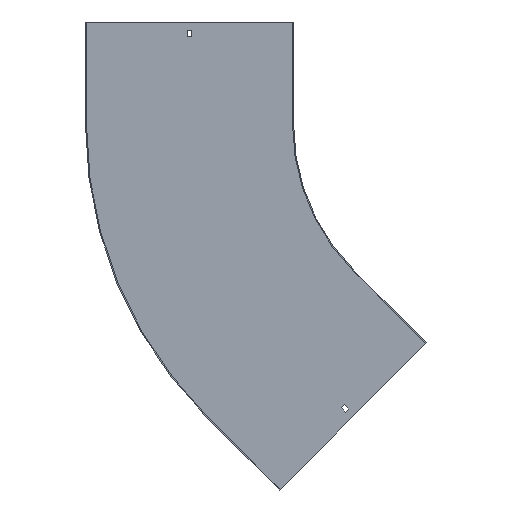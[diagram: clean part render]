
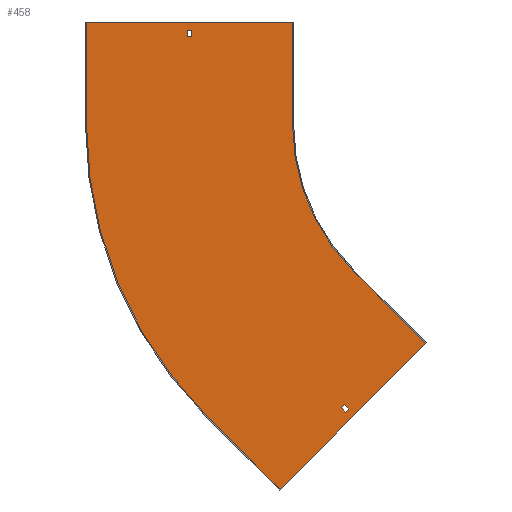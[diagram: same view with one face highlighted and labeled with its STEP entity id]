
A CAD part, front view. The second image highlights one B-rep face of the part: STEP entity #458.
In plain terms, the highlighted planar face has unit normal (0, -1, 0).
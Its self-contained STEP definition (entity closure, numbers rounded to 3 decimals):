
#4 = CARTESIAN_POINT ( 'NONE',  ( -424.264, -1.5, -424.264 ) ) ;
#12 = VERTEX_POINT ( 'NONE', #840 ) ;
#17 = CARTESIAN_POINT ( 'NONE',  ( -300., -1.5, 150. ) ) ;
#18 = VERTEX_POINT ( 'NONE', #35 ) ;
#24 = CARTESIAN_POINT ( 'NONE',  ( -224.683, -1.5, -407.117 ) ) ;
#26 = LINE ( 'NONE', #428, #53 ) ;
#34 = EDGE_CURVE ( 'NONE', #195, #340, #165, .T. ) ;
#35 = CARTESIAN_POINT ( 'NONE',  ( -318.198, -1.5, -530.33 ) ) ;
#45 = LINE ( 'NONE', #199, #316 ) ;
#53 = VECTOR ( 'NONE', #563, 1000. ) ;
#58 = CARTESIAN_POINT ( 'NONE',  ( -446.75, -1.5, 129. ) ) ;
#60 = DIRECTION ( 'NONE',  ( 1., 0., 0. ) ) ;
#62 = CARTESIAN_POINT ( 'NONE',  ( -212.132, -1.5, -212.132 ) ) ;
#66 = CARTESIAN_POINT ( 'NONE',  ( 0., -1.5, 0. ) ) ;
#68 = VERTEX_POINT ( 'NONE', #329 ) ;
#69 = FACE_BOUND ( 'NONE', #325, .T. ) ;
#70 = CARTESIAN_POINT ( 'NONE',  ( 0., -1.5, 0. ) ) ;
#72 = ORIENTED_EDGE ( 'NONE', *, *, #547, .T. ) ;
#83 = ORIENTED_EDGE ( 'NONE', *, *, #754, .F. ) ;
#85 = LINE ( 'NONE', #543, #319 ) ;
#86 = ORIENTED_EDGE ( 'NONE', *, *, #157, .F. ) ;
#112 = VECTOR ( 'NONE', #555, 1000. ) ;
#115 = LINE ( 'NONE', #771, #227 ) ;
#119 = CARTESIAN_POINT ( 'NONE',  ( -106.066, -1.5, -318.198 ) ) ;
#129 = VERTEX_POINT ( 'NONE', #119 ) ;
#140 = FACE_OUTER_BOUND ( 'NONE', #639, .T. ) ;
#157 = EDGE_CURVE ( 'NONE', #710, #387, #453, .T. ) ;
#165 = LINE ( 'NONE', #192, #365 ) ;
#173 = EDGE_CURVE ( 'NONE', #847, #825, #638, .T. ) ;
#176 = VECTOR ( 'NONE', #747, 1000. ) ;
#192 = CARTESIAN_POINT ( 'NONE',  ( 0., -1.5, 138. ) ) ;
#195 = VERTEX_POINT ( 'NONE', #462 ) ;
#199 = CARTESIAN_POINT ( 'NONE',  ( -453.25, -1.5, 0. ) ) ;
#221 = ORIENTED_EDGE ( 'NONE', *, *, #34, .T. ) ;
#227 = VECTOR ( 'NONE', #382, 1000. ) ;
#228 = LINE ( 'NONE', #488, #176 ) ;
#230 = CARTESIAN_POINT ( 'NONE',  ( -315.9, -1.5, -315.9 ) ) ;
#238 = CARTESIAN_POINT ( 'NONE',  ( -318.198, -1.5, -530.33 ) ) ;
#239 = VECTOR ( 'NONE', #633, 1000. ) ;
#255 = EDGE_CURVE ( 'NONE', #387, #847, #492, .T. ) ;
#257 = ORIENTED_EDGE ( 'NONE', *, *, #173, .F. ) ;
#258 = DIRECTION ( 'NONE',  ( -0.707, 0., -0.707 ) ) ;
#272 = CARTESIAN_POINT ( 'NONE',  ( -105.005, -1.5, -317.137 ) ) ;
#295 = VECTOR ( 'NONE', #299, 1000. ) ;
#299 = DIRECTION ( 'NONE',  ( 0., 0., -1. ) ) ;
#316 = VECTOR ( 'NONE', #696, 1000. ) ;
#318 = VERTEX_POINT ( 'NONE', #24 ) ;
#319 = VECTOR ( 'NONE', #353, 1000. ) ;
#325 = EDGE_LOOP ( 'NONE', ( #740, #339, #643, #861 ) ) ;
#326 = LINE ( 'NONE', #272, #531 ) ;
#329 = CARTESIAN_POINT ( 'NONE',  ( -222.915, -1.5, -418.077 ) ) ;
#331 = EDGE_CURVE ( 'NONE', #340, #646, #85, .T. ) ;
#339 = ORIENTED_EDGE ( 'NONE', *, *, #731, .F. ) ;
#340 = VERTEX_POINT ( 'NONE', #738 ) ;
#347 = ORIENTED_EDGE ( 'NONE', *, *, #331, .T. ) ;
#350 = AXIS2_PLACEMENT_3D ( 'NONE', #66, #722, #401 ) ;
#353 = DIRECTION ( 'NONE',  ( 0., 0., -1. ) ) ;
#365 = VECTOR ( 'NONE', #624, 1000. ) ;
#369 = CIRCLE ( 'NONE', #653, 600. ) ;
#382 = DIRECTION ( 'NONE',  ( 0.707, 0., -0.707 ) ) ;
#384 = EDGE_LOOP ( 'NONE', ( #221, #347, #72, #599 ) ) ;
#387 = VERTEX_POINT ( 'NONE', #17 ) ;
#401 = DIRECTION ( 'NONE',  ( 0., 0., -1. ) ) ;
#408 = FACE_BOUND ( 'NONE', #384, .T. ) ;
#428 = CARTESIAN_POINT ( 'NONE',  ( 0., -1.5, 129. ) ) ;
#452 = LINE ( 'NONE', #707, #239 ) ;
#453 = LINE ( 'NONE', #644, #498 ) ;
#458 = ADVANCED_FACE ( 'NONE', ( #69, #140, #408 ), #801, .T. ) ;
#462 = CARTESIAN_POINT ( 'NONE',  ( -453.25, -1.5, 138. ) ) ;
#474 = VERTEX_POINT ( 'NONE', #4 ) ;
#488 = CARTESIAN_POINT ( 'NONE',  ( -600., -1.5, 0. ) ) ;
#492 = LINE ( 'NONE', #807, #295 ) ;
#497 = DIRECTION ( 'NONE',  ( -0.707, 0., 0.707 ) ) ;
#498 = VECTOR ( 'NONE', #60, 1000. ) ;
#511 = DIRECTION ( 'NONE',  ( 0., 0., -1. ) ) ;
#512 = CARTESIAN_POINT ( 'NONE',  ( -300., -1.5, 0. ) ) ;
#530 = CARTESIAN_POINT ( 'NONE',  ( -600., -1.5, 150. ) ) ;
#531 = VECTOR ( 'NONE', #258, 1000. ) ;
#540 = ORIENTED_EDGE ( 'NONE', *, *, #815, .F. ) ;
#543 = CARTESIAN_POINT ( 'NONE',  ( -446.75, -1.5, 0. ) ) ;
#547 = EDGE_CURVE ( 'NONE', #646, #591, #26, .T. ) ;
#555 = DIRECTION ( 'NONE',  ( 0.707, 0., 0.707 ) ) ;
#561 = LINE ( 'NONE', #238, #757 ) ;
#563 = DIRECTION ( 'NONE',  ( -1., 0., 0. ) ) ;
#574 = EDGE_CURVE ( 'NONE', #12, #710, #228, .T. ) ;
#576 = ORIENTED_EDGE ( 'NONE', *, *, #574, .F. ) ;
#579 = DIRECTION ( 'NONE',  ( 0., 1., 0. ) ) ;
#580 = VECTOR ( 'NONE', #808, 1000. ) ;
#591 = VERTEX_POINT ( 'NONE', #687 ) ;
#594 = EDGE_CURVE ( 'NONE', #18, #474, #561, .T. ) ;
#598 = VECTOR ( 'NONE', #855, 1000. ) ;
#599 = ORIENTED_EDGE ( 'NONE', *, *, #841, .T. ) ;
#603 = ORIENTED_EDGE ( 'NONE', *, *, #255, .F. ) ;
#607 = CARTESIAN_POINT ( 'NONE',  ( 97.581, -1.5, -97.581 ) ) ;
#613 = VERTEX_POINT ( 'NONE', #837 ) ;
#621 = LINE ( 'NONE', #230, #598 ) ;
#624 = DIRECTION ( 'NONE',  ( 1., 0., 0. ) ) ;
#633 = DIRECTION ( 'NONE',  ( -0.707, 0., -0.707 ) ) ;
#638 = CIRCLE ( 'NONE', #755, 300. ) ;
#639 = EDGE_LOOP ( 'NONE', ( #86, #576, #690, #704, #540, #83, #257, #603 ) ) ;
#642 = EDGE_CURVE ( 'NONE', #613, #68, #115, .T. ) ;
#643 = ORIENTED_EDGE ( 'NONE', *, *, #642, .F. ) ;
#644 = CARTESIAN_POINT ( 'NONE',  ( -601.5, -1.5, 150. ) ) ;
#646 = VERTEX_POINT ( 'NONE', #58 ) ;
#648 = DIRECTION ( 'NONE',  ( 0., 0., -1. ) ) ;
#653 = AXIS2_PLACEMENT_3D ( 'NONE', #766, #579, #511 ) ;
#664 = EDGE_CURVE ( 'NONE', #474, #12, #369, .T. ) ;
#687 = CARTESIAN_POINT ( 'NONE',  ( -453.25, -1.5, 129. ) ) ;
#690 = ORIENTED_EDGE ( 'NONE', *, *, #664, .F. ) ;
#696 = DIRECTION ( 'NONE',  ( 0., 0., 1. ) ) ;
#699 = VERTEX_POINT ( 'NONE', #857 ) ;
#704 = ORIENTED_EDGE ( 'NONE', *, *, #594, .F. ) ;
#707 = CARTESIAN_POINT ( 'NONE',  ( 91.217, -1.5, -91.217 ) ) ;
#710 = VERTEX_POINT ( 'NONE', #530 ) ;
#717 = DIRECTION ( 'NONE',  ( 0., -1., 0. ) ) ;
#722 = DIRECTION ( 'NONE',  ( 0., -1., 0. ) ) ;
#731 = EDGE_CURVE ( 'NONE', #68, #699, #798, .T. ) ;
#738 = CARTESIAN_POINT ( 'NONE',  ( -446.75, -1.5, 138. ) ) ;
#740 = ORIENTED_EDGE ( 'NONE', *, *, #787, .F. ) ;
#747 = DIRECTION ( 'NONE',  ( 0., 0., 1. ) ) ;
#754 = EDGE_CURVE ( 'NONE', #825, #129, #835, .T. ) ;
#755 = AXIS2_PLACEMENT_3D ( 'NONE', #70, #717, #648 ) ;
#757 = VECTOR ( 'NONE', #497, 1000. ) ;
#766 = CARTESIAN_POINT ( 'NONE',  ( 0., -1.5, 0. ) ) ;
#771 = CARTESIAN_POINT ( 'NONE',  ( -320.496, -1.5, -320.496 ) ) ;
#787 = EDGE_CURVE ( 'NONE', #699, #318, #621, .T. ) ;
#798 = LINE ( 'NONE', #607, #112 ) ;
#801 = PLANE ( 'NONE',  #350 ) ;
#807 = CARTESIAN_POINT ( 'NONE',  ( -300., -1.5, 150. ) ) ;
#808 = DIRECTION ( 'NONE',  ( 0.707, 0., -0.707 ) ) ;
#815 = EDGE_CURVE ( 'NONE', #129, #18, #326, .T. ) ;
#816 = CARTESIAN_POINT ( 'NONE',  ( -212.132, -1.5, -212.132 ) ) ;
#825 = VERTEX_POINT ( 'NONE', #62 ) ;
#835 = LINE ( 'NONE', #816, #580 ) ;
#837 = CARTESIAN_POINT ( 'NONE',  ( -229.279, -1.5, -411.713 ) ) ;
#840 = CARTESIAN_POINT ( 'NONE',  ( -600., -1.5, 0. ) ) ;
#841 = EDGE_CURVE ( 'NONE', #591, #195, #45, .T. ) ;
#847 = VERTEX_POINT ( 'NONE', #512 ) ;
#855 = DIRECTION ( 'NONE',  ( -0.707, 0., 0.707 ) ) ;
#857 = CARTESIAN_POINT ( 'NONE',  ( -218.319, -1.5, -413.481 ) ) ;
#860 = EDGE_CURVE ( 'NONE', #318, #613, #452, .T. ) ;
#861 = ORIENTED_EDGE ( 'NONE', *, *, #860, .F. ) ;
